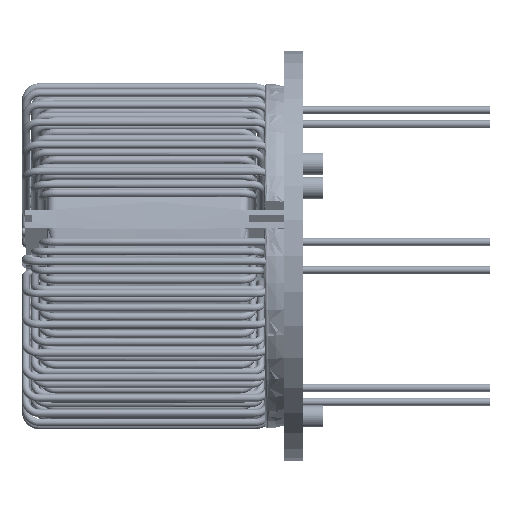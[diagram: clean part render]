
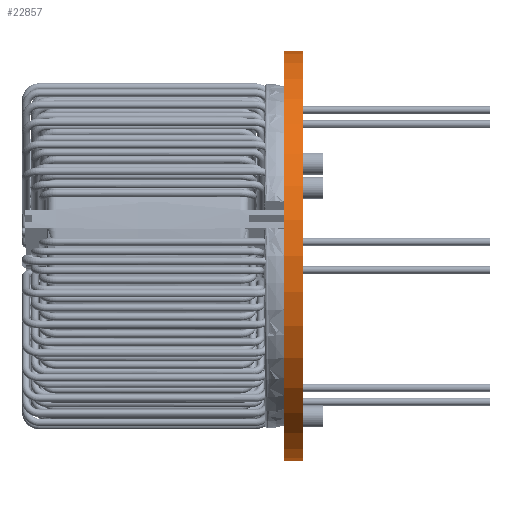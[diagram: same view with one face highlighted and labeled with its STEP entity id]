
A CAD part, left-side view. The second image highlights one B-rep face of the part: STEP entity #22857.
In plain terms, the highlighted cylindrical face has radius 13.9 mm (diameter 27.8 mm), a partial arc.
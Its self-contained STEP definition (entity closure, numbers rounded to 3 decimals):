
#1001 = DIRECTION ( 'NONE',  ( 0., 0., 1. ) ) ;
#5497 = DIRECTION ( 'NONE',  ( 0., 1., 0. ) ) ;
#5603 = CARTESIAN_POINT ( 'NONE',  ( 0., 0.65, -13.9 ) ) ;
#6932 = CARTESIAN_POINT ( 'NONE',  ( 0., -0.65, 13.9 ) ) ;
#11592 = FACE_OUTER_BOUND ( 'NONE', #28537, .T. ) ;
#12012 = AXIS2_PLACEMENT_3D ( 'NONE', #41792, #5497, #47875 ) ;
#12465 = LINE ( 'NONE', #58823, #58832 ) ;
#16462 = ORIENTED_EDGE ( 'NONE', *, *, #42800, .F. ) ;
#19207 = DIRECTION ( 'NONE',  ( 0., -1., 0. ) ) ;
#20237 = EDGE_CURVE ( 'NONE', #24726, #59198, #48883, .T. ) ;
#22857 = ADVANCED_FACE ( 'NONE', ( #11592 ), #25854, .T. ) ;
#23509 = CARTESIAN_POINT ( 'NONE',  ( 0., -0.65, -13.9 ) ) ;
#24537 = EDGE_CURVE ( 'NONE', #75379, #24726, #12465, .T. ) ;
#24726 = VERTEX_POINT ( 'NONE', #6932 ) ;
#25854 = CYLINDRICAL_SURFACE ( 'NONE', #58833, 13.9 ) ;
#28537 = EDGE_LOOP ( 'NONE', ( #48971, #62008, #57590, #16462 ) ) ;
#29764 = VECTOR ( 'NONE', #40559, 1000. ) ;
#31636 = LINE ( 'NONE', #46646, #29764 ) ;
#37263 = VERTEX_POINT ( 'NONE', #5603 ) ;
#37313 = DIRECTION ( 'NONE',  ( 0., 1., 0. ) ) ;
#40559 = DIRECTION ( 'NONE',  ( 0., -1., 0. ) ) ;
#40574 = DIRECTION ( 'NONE',  ( 0., -1., 0. ) ) ;
#41792 = CARTESIAN_POINT ( 'NONE',  ( 0., -0.65, 0. ) ) ;
#42800 = EDGE_CURVE ( 'NONE', #37263, #59198, #31636, .T. ) ;
#43578 = CARTESIAN_POINT ( 'NONE',  ( 0., 0.65, 0. ) ) ;
#46646 = CARTESIAN_POINT ( 'NONE',  ( 0., 0.65, -13.9 ) ) ;
#47518 = CARTESIAN_POINT ( 'NONE',  ( 0., 0.65, 13.9 ) ) ;
#47875 = DIRECTION ( 'NONE',  ( 0., 0., 1. ) ) ;
#48883 = CIRCLE ( 'NONE', #12012, 13.9 ) ;
#48971 = ORIENTED_EDGE ( 'NONE', *, *, #78353, .F. ) ;
#57590 = ORIENTED_EDGE ( 'NONE', *, *, #20237, .T. ) ;
#58397 = CIRCLE ( 'NONE', #71083, 13.9 ) ;
#58823 = CARTESIAN_POINT ( 'NONE',  ( 0., 0.65, 13.9 ) ) ;
#58833 = AXIS2_PLACEMENT_3D ( 'NONE', #43578, #19207, #61574 ) ;
#58832 = VECTOR ( 'NONE', #40574, 1000. ) ;
#59198 = VERTEX_POINT ( 'NONE', #23509 ) ;
#61574 = DIRECTION ( 'NONE',  ( 0., 0., -1. ) ) ;
#62008 = ORIENTED_EDGE ( 'NONE', *, *, #24537, .T. ) ;
#71083 = AXIS2_PLACEMENT_3D ( 'NONE', #73598, #37313, #1001 ) ;
#73598 = CARTESIAN_POINT ( 'NONE',  ( 0., 0.65, 0. ) ) ;
#75379 = VERTEX_POINT ( 'NONE', #47518 ) ;
#78353 = EDGE_CURVE ( 'NONE', #75379, #37263, #58397, .T. ) ;
